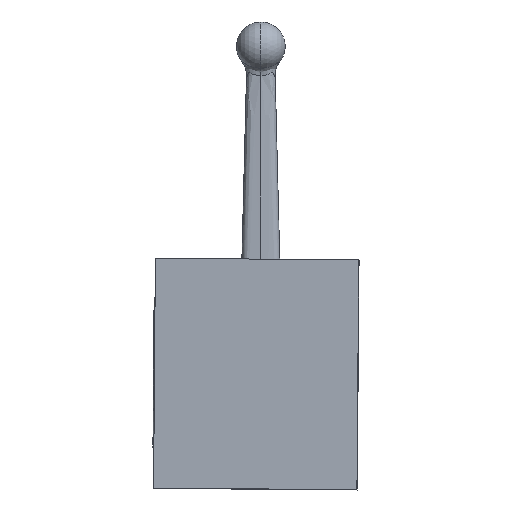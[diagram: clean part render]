
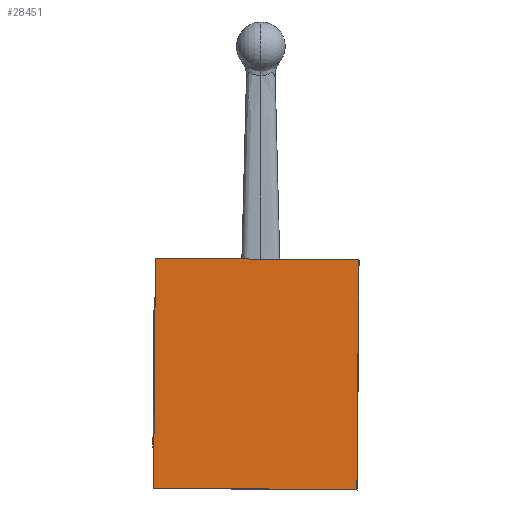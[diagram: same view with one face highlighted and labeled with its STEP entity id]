
A CAD part, front view. The second image highlights one B-rep face of the part: STEP entity #28451.
In plain terms, the highlighted planar face has unit normal (-0.001, -1, 0.001).
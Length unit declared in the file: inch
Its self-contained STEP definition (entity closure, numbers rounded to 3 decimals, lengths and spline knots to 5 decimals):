
#1210 = CARTESIAN_POINT ( 'NONE',  ( 2.16957, -1.79969, 4.32577 ) ) ;
#2033 = DIRECTION ( 'NONE',  ( 1., -0.001, -0.008 ) ) ;
#2440 = LINE ( 'NONE', #25901, #10023 ) ;
#4746 = DIRECTION ( 'NONE',  ( -1., 0.001, 0.008 ) ) ;
#7332 = PLANE ( 'NONE',  #18626 ) ;
#7752 = CARTESIAN_POINT ( 'NONE',  ( -1.78531, -1.79434, 4.35691 ) ) ;
#8873 = CARTESIAN_POINT ( 'NONE',  ( -1.78531, -1.79434, 4.35691 ) ) ;
#10023 = VECTOR ( 'NONE', #19294, 39.37008 ) ;
#13529 = EDGE_CURVE ( 'NONE', #41276, #16949, #2440, .T. ) ;
#14855 = EDGE_CURVE ( 'NONE', #31318, #16949, #19192, .T. ) ;
#15083 = EDGE_CURVE ( 'NONE', #27030, #41276, #25076, .T. ) ;
#15631 = ORIENTED_EDGE ( 'NONE', *, *, #31492, .F. ) ;
#16949 = VERTEX_POINT ( 'NONE', #35605 ) ;
#18015 = VECTOR ( 'NONE', #2033, 39.37008 ) ;
#18264 = LINE ( 'NONE', #31277, #18015 ) ;
#18626 = AXIS2_PLACEMENT_3D ( 'NONE', #7752, #33999, #4746 ) ;
#19192 = LINE ( 'NONE', #29020, #34630 ) ;
#19294 = DIRECTION ( 'NONE',  ( 1., -0.001, -0.008 ) ) ;
#23450 = ORIENTED_EDGE ( 'NONE', *, *, #14855, .F. ) ;
#23827 = EDGE_LOOP ( 'NONE', ( #23450, #15631, #34996, #40489 ) ) ;
#25076 = LINE ( 'NONE', #31695, #33962 ) ;
#25901 = CARTESIAN_POINT ( 'NONE',  ( -1.82051, -1.8003, -0.11295 ) ) ;
#27030 = VERTEX_POINT ( 'NONE', #8873 ) ;
#27168 = FACE_OUTER_BOUND ( 'NONE', #23827, .T. ) ;
#28451 = ADVANCED_FACE ( 'NONE', ( #27168 ), #7332, .T. ) ;
#29020 = CARTESIAN_POINT ( 'NONE',  ( 2.16957, -1.79969, 4.32577 ) ) ;
#30451 = DIRECTION ( 'NONE',  ( -0.008, -0.001, -1. ) ) ;
#31277 = CARTESIAN_POINT ( 'NONE',  ( -1.78531, -1.79434, 4.35691 ) ) ;
#31318 = VERTEX_POINT ( 'NONE', #1210 ) ;
#31492 = EDGE_CURVE ( 'NONE', #27030, #31318, #18264, .T. ) ;
#31695 = CARTESIAN_POINT ( 'NONE',  ( -1.78531, -1.79434, 4.35691 ) ) ;
#32368 = CARTESIAN_POINT ( 'NONE',  ( -1.82051, -1.8003, -0.11295 ) ) ;
#33962 = VECTOR ( 'NONE', #38123, 39.37008 ) ;
#33999 = DIRECTION ( 'NONE',  ( -0.001, -1., 0.001 ) ) ;
#34630 = VECTOR ( 'NONE', #30451, 39.37008 ) ;
#34996 = ORIENTED_EDGE ( 'NONE', *, *, #15083, .T. ) ;
#35605 = CARTESIAN_POINT ( 'NONE',  ( 2.13437, -1.80565, -0.14409 ) ) ;
#38123 = DIRECTION ( 'NONE',  ( -0.008, -0.001, -1. ) ) ;
#40489 = ORIENTED_EDGE ( 'NONE', *, *, #13529, .T. ) ;
#41276 = VERTEX_POINT ( 'NONE', #32368 ) ;
